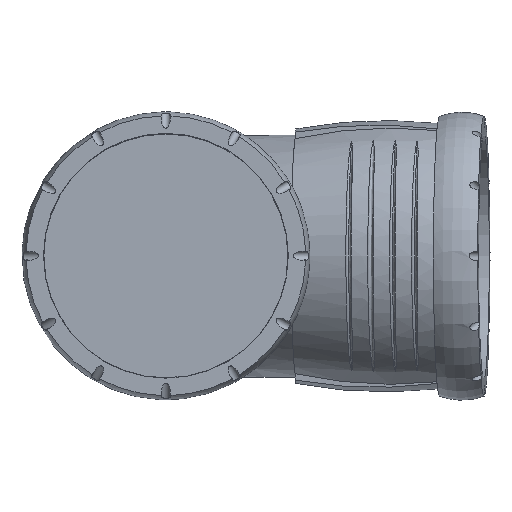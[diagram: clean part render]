
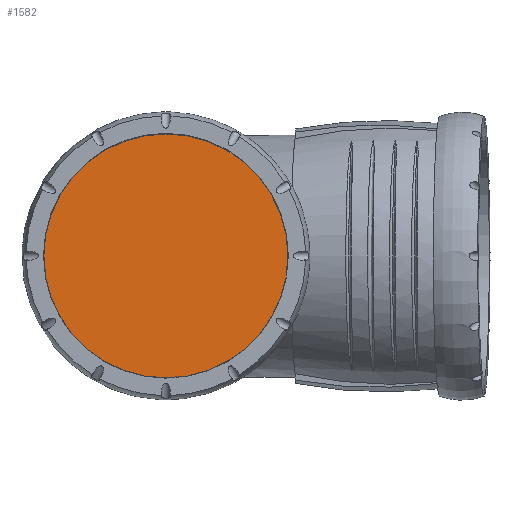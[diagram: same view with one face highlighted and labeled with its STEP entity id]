
A CAD part, top view. The second image highlights one B-rep face of the part: STEP entity #1582.
In plain terms, the highlighted planar face has unit normal (0, 0, 1).
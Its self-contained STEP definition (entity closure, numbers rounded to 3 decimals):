
#217=PLANE('',#1706);
#292=FACE_OUTER_BOUND('',#397,.T.);
#397=EDGE_LOOP('',(#1015));
#534=CIRCLE('',#1707,55.5);
#607=VERTEX_POINT('',#2429);
#776=EDGE_CURVE('',#607,#607,#534,.T.);
#1015=ORIENTED_EDGE('',*,*,#776,.T.);
#1582=ADVANCED_FACE('',(#292),#217,.T.);
#1706=AXIS2_PLACEMENT_3D('',#2428,#1888,#1889);
#1707=AXIS2_PLACEMENT_3D('',#2430,#1890,#1891);
#1888=DIRECTION('center_axis',(0.,0.,
1.));
#1889=DIRECTION('ref_axis',(0.,1.,0.));
#1890=DIRECTION('center_axis',(0.,0.,
1.));
#1891=DIRECTION('ref_axis',(0.,1.,0.));
#2428=CARTESIAN_POINT('Origin',(0.,0.,
215.4));
#2429=CARTESIAN_POINT('',(-55.5,0.,215.4));
#2430=CARTESIAN_POINT('Origin',(0.,0.,
215.4));
